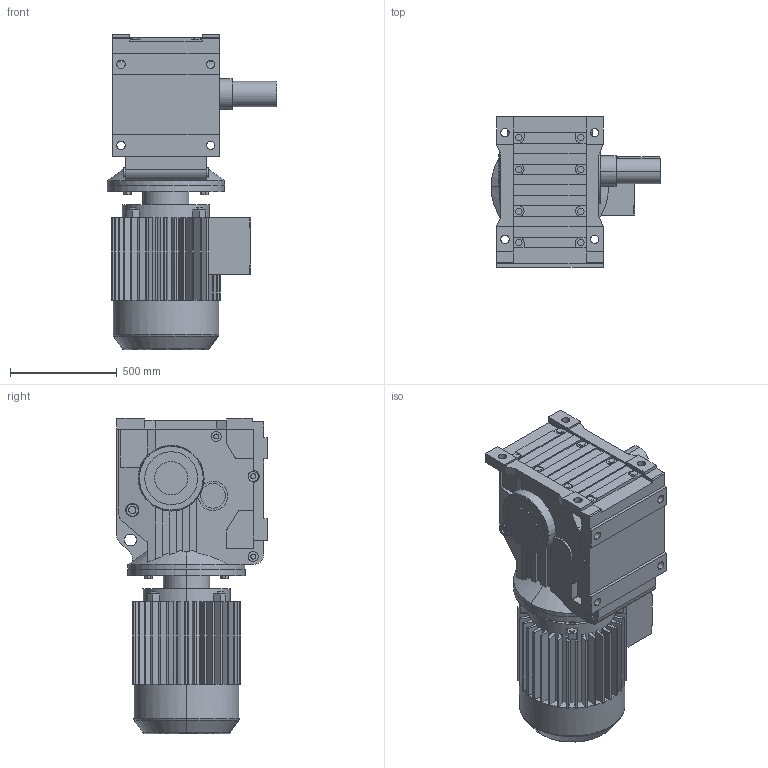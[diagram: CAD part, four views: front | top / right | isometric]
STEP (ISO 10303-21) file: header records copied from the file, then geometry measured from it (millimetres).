
FILE_DESCRIPTION(('Open CASCADE Model'),'2;1');
FILE_NAME('Open CASCADE Shape Model','2021-05-21T15:32:53',('Author'),( 'Open CASCADE'),'Open CASCADE STEP processor 6.3','Open CASCADE 6.3' ,'Unknown');
FILE_SCHEMA(('AUTOMOTIVE_DESIGN_CC2 { 1 2 10303 214 -1 1 5 4 }'));
Length unit declared in the file: millimetre
Products named in the file (4): 1_K157DV250M-A; K37‵157_157.step; 萇儂_550-DV250M-771-956-510-397.step; す瑩妗陑粣K_157.step
Assembly tree (3 placements, depth 2):
  1_K157DV250M-A
    K37‵157_157.step
    萇儂_550-DV250M-771-956-510-397.step
    す瑩妗陑粣K_157.step
Bounding box: 795 x 705 x 1477 mm (x, y, z)
Volume: 316306895.9 mm3; surface area: 6422419 mm2
Topology: 3 solids, 3 shells, 837 faces, 2207 edges, 1433 vertices
Faces by surface type: plane 584, cylinder 230, cone 15, torus 8
Entity records: 58060 total; most frequent: CARTESIAN_POINT 16125, DIRECTION 7223, ORIENTED_EDGE 4410, PCURVE 4410, DEFINITIONAL_REPRESENTATION 4410, LINE 3940, VECTOR 3940, EDGE_CURVE 2205
